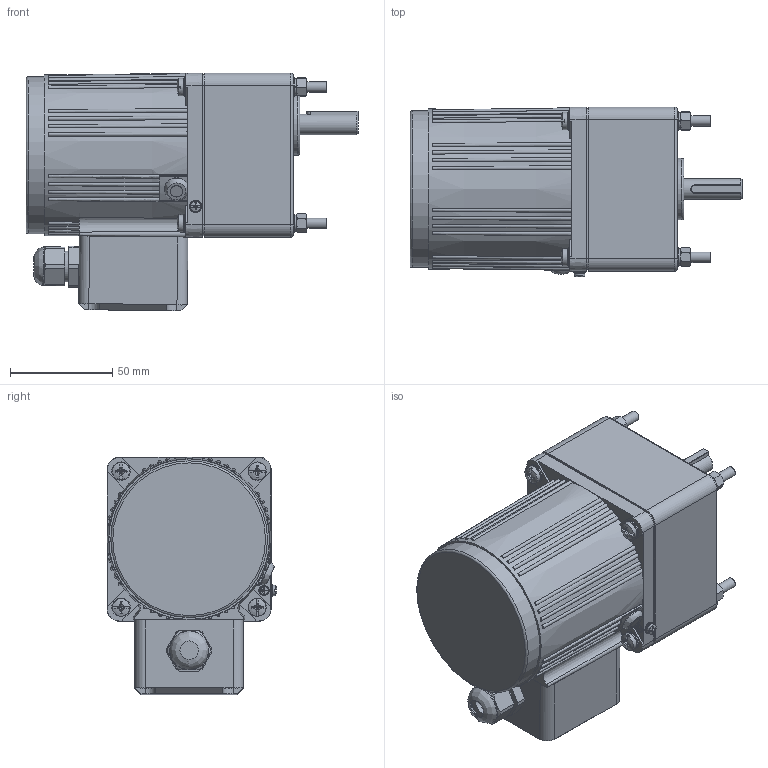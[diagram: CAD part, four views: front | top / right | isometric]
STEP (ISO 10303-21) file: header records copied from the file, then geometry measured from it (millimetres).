
FILE_DESCRIPTION(/* description */ (''),/* implementation_level */ '2;1');
FILE_NAME(/* name */ '4RK25-30GNC-4GN25-750K-C·10T常规接线盒.stp',/* time_stamp */ '2025-04-13T15:02:41+08:00',/* author */ (''),/* organization */ (''),/* preprocessor_version */ 'ST-DEVELOPER v18.102',/* originating_system */ 'SIEMENS PLM Software NX 2027',/* authorisation */ '');
FILE_SCHEMA (('AP203_CONFIGURATION_CONTROLLED_3D_DESIGN_OF_MECHANICAL_PARTS_AND_ASSEMBLIES_MIM_LF { 1 0 10303 403 2 1 2}'));
Length unit declared in the file: millimetre
Products named in the file (1): 4RK25-30CC-4GN25-750K-C·10T_stp_objects
Bounding box: 162 x 82.78 x 115.89 mm (x, y, z)
Volume: 742629.1 mm3; surface area: 111027.7 mm2
Topology: 21 solids, 22 shells, 984 faces, 2501 edges, 1613 vertices
Faces by surface type: plane 367, bspline 237, cylinder 183, cone 131, torus 48, sphere 14, revolution 4
Full cylindrical faces by diameter (mm): 2.6 x1, 2.7 x1, 3.2 x1, 4 x1, 4.351 x4, 4.4 x1, 4.5 x4, 4.6 x4, 5 x5, 5.1 x1, 5.3 x8, 6 x10, 6.5 x4, 8.2 x1, 8.5 x4, 9 x9, 10 x1, 10.5 x1, 12 x1, 15 x2, 16 x1, 18 x1, 19 x2, 26 x1, 30 x1, 56 x1, 67 x1, 73 x1, 75 x2, 76.5 x1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
Entity records: 35649 total; most frequent: CARTESIAN_POINT 14973, ORIENTED_EDGE 4600, DIRECTION 3256, EDGE_CURVE 2300, VERTEX_POINT 1546, AXIS2_PLACEMENT_3D 1330, EDGE_LOOP 1221, B_SPLINE_CURVE_WITH_KNOTS 1119
